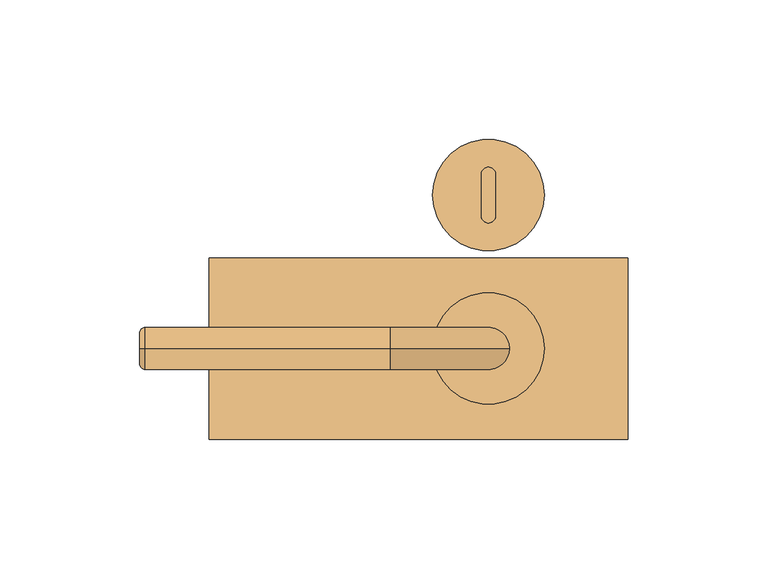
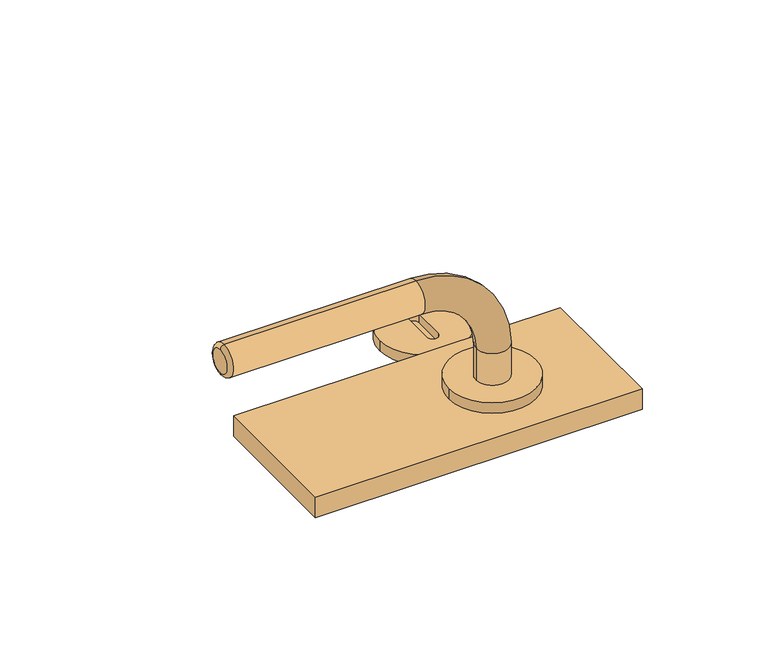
"""IFC4 building model written with IfcOpenShell, lengths in millimetres: door geometry, VERTI - kování TUPAI : ELIPTICA."""

from ifc_helpers import new_model, si_unit, point, frame, origin, origin_with_axes, origin_2d, place, context, project, spatial, polyline, circle_curve, ellipse_curve, trimmed, segment, composite_curve, outline, extrude, source, transform, mapped, element, save
from ifc_brep_helpers import plane_surface, cylinder_surface, revolved_surface, advanced_brep


def door_9093d3e3(model_context):
    return source(origin(), model_context, "Body", "SolidModel", [
        advanced_brep(
        [(7.5, 0.0, 0.0), (-7.5, 0.0, 0.0), (-7.5, 0.0, 30.0), (7.5, 0.0, 30.0), (-35.0, 0.0, 57.5), (-35.0, 0.0, 72.5), (-125.0, 0.0, 59.5), (-125.0, 0.0, 70.5), (-123.0, 0.0, 57.5), (-123.0, 0.0, 72.5)],
        [
            (0, 1, circle_curve(frame((0.0, 0.0, 0.0), z_axis=(0.0, 0.0, -1.0), x_axis=(-1.0, 0.0, 0.0)), 7.5)),
            (1, 0, circle_curve(frame((0.0, 0.0, 0.0), z_axis=(0.0, 0.0, -1.0), x_axis=(-1.0, 0.0, 0.0)), 7.5)),
            (1, 2),
            (2, 3, circle_curve(frame((0.0, 0.0, 30.0), z_axis=(0.0, 0.0, -1.0), x_axis=(-1.0, 0.0, 0.0)), 7.5)),
            (3, 0),
            (3, 2, circle_curve(frame((0.0, 0.0, 30.0), z_axis=(0.0, 0.0, -1.0), x_axis=(-1.0, 0.0, 0.0)), 7.5)),
            (2, 4, circle_curve(frame((-35.0, 0.0, 30.0), z_axis=(0.0, -1.0, 0.0), x_axis=(1.0, 0.0, 0.0)), 27.5)),
            (4, 5, circle_curve(frame((-35.0, 0.0, 65.0), z_axis=(1.0, 0.0, 0.0), x_axis=(0.0, 0.0, -1.0)), 7.5)),
            (5, 3, circle_curve(frame((-35.0, 0.0, 30.0), z_axis=(0.0, 1.0, 0.0), x_axis=(1.0, 0.0, 0.0)), 42.5)),
            (5, 4, circle_curve(frame((-35.0, 0.0, 65.0), z_axis=(1.0, 0.0, 0.0), x_axis=(0.0, 0.0, -1.0)), 7.5)),
            (6, 7, circle_curve(frame((-125.0, 0.0, 65.0), z_axis=(-1.0, 0.0, 0.0), x_axis=(0.0, 0.0, -1.0)), 5.5)),
            (7, 6, circle_curve(frame((-125.0, 0.0, 65.0), z_axis=(-1.0, 0.0, 0.0), x_axis=(0.0, 0.0, 1.0)), 5.5)),
            (4, 8),
            (8, 9, circle_curve(frame((-123.0, 0.0, 65.0), z_axis=(1.0, 0.0, 0.0), x_axis=(0.0, 0.0, -1.0)), 7.5)),
            (9, 5),
            (9, 8, circle_curve(frame((-123.0, 0.0, 65.0), z_axis=(1.0, 0.0, 0.0), x_axis=(0.0, 0.0, -1.0)), 7.5)),
            (7, 9, circle_curve(frame((-123.0, 0.0, 70.5), z_axis=(0.0, 1.0, 0.0), x_axis=(0.0, 0.0, -1.0)), 2.0)),
            (8, 6, circle_curve(frame((-123.0, 0.0, 59.5), z_axis=(0.0, 1.0, 0.0), x_axis=(0.0, 0.0, 1.0)), 2.0)),
        ],
        [
            plane_surface(frame((0.0, 0.0, 0.0), z_axis=(0.0, 0.0, -1.0), x_axis=(0.0, 1.0, 0.0))),
            cylinder_surface(frame((0.0, 0.0, 0.0), z_axis=(0.0, 0.0, -1.0), x_axis=(-1.0, 0.0, 0.0)), 7.5),
            revolved_surface(trimmed(ellipse_curve(frame((0.0, 0.0, 30.0), z_axis=(0.0, 0.0, 1.0), x_axis=(-1.0, 0.0, 0.0)), 7.5, 7.5), [point((7.5, 0.0, 30.0))], [point((-7.5, 0.0, 30.0))], True, "CARTESIAN"), (-35.0, 0.0, 30.0), (0.0, 1.0, 0.0)),
            revolved_surface(trimmed(ellipse_curve(frame((0.0, 0.0, 30.0), z_axis=(0.0, 0.0, 1.0), x_axis=(-1.0, 0.0, 0.0)), 7.5, 7.5), [point((-7.5, 0.0, 30.0))], [point((7.5, 0.0, 30.0))], True, "CARTESIAN"), (-35.0, 0.0, 30.0), (0.0, 1.0, 0.0)),
            plane_surface(frame((-125.0, 0.0, 65.0), z_axis=(-1.0, 0.0, 0.0), x_axis=(0.0, 1.0, 0.0))),
            cylinder_surface(frame((-35.0, 0.0, 65.0), z_axis=(1.0, 0.0, 0.0), x_axis=(0.0, 0.0, -1.0)), 7.5),
            revolved_surface(trimmed(ellipse_curve(frame((-123.0, 0.0, 70.5), z_axis=(0.0, 1.0, 0.0), x_axis=(0.0, 0.0, -1.0)), 2.0, 2.0), [point((-125.0, 0.0, 70.5))], [point((-123.0, 0.0, 72.5))], True, "CARTESIAN"), (-125.0, 0.0, 65.0), (1.0, 0.0, 0.0)),
            revolved_surface(trimmed(ellipse_curve(frame((-123.0, 0.0, 59.5), z_axis=(0.0, -1.0, 0.0), x_axis=(0.0, 0.0, 1.0)), 2.0, 2.0), [point((-125.0, 0.0, 59.5))], [point((-123.0, 0.0, 57.5))], True, "CARTESIAN"), (-125.0, 0.0, 65.0), (1.0, 0.0, 0.0)),
        ],
        [
            (0, [[1, 2]]),
            (1, [[3, 4, 5, -2]]),
            (1, [[-5, 6, -3, -1]]),
            (2, [[7, 8, 9, -4]]),
            (3, [[-9, 10, -7, -6]]),
            (4, [[11, 12]]),
            (5, [[13, 14, 15, -8]]),
            (5, [[-15, 16, -13, -10]]),
            (6, [[-12, 17, -14, 18]]),
            (7, [[-16, -17, -11, -18]]),
        ],
    ),
        advanced_brep(
        [(-20.0, 55.0, 5.0), (20.0, 55.0, 5.0), (-2.5, 62.4770958, 5.0), (2.5, 62.4770958, 5.0), (2.5, 47.5, 5.0), (-2.5, 47.5, 5.0), (-20.0, 55.0, 0.0), (20.0, 55.0, 0.0), (2.5, 62.4770958, 1.0), (2.5, 47.5, 1.0), (-2.5, 47.5, 1.0), (-2.5, 62.4770958, 1.0), (0.0, 45.0, 1.0)],
        [
            (0, 1, circle_curve(frame((0.0, 55.0, 5.0), z_axis=(0.0, 0.0, 1.0), x_axis=(1.0, 0.0, 0.0)), 20.0)),
            (1, 0, circle_curve(frame((0.0, 55.0, 5.0), z_axis=(0.0, 0.0, 1.0), x_axis=(1.0, 0.0, 0.0)), 20.0)),
            (2, 3, circle_curve(frame((0.0, 62.4770958, 5.0), z_axis=(0.0, 0.0, -1.0), x_axis=(1.0, 0.0, 0.0)), 2.5)),
            (3, 4),
            (4, 5, circle_curve(frame((0.0, 47.5, 5.0), z_axis=(0.0, 0.0, -1.0), x_axis=(1.0, 0.0, 0.0)), 2.5)),
            (5, 2),
            (6, 7, circle_curve(frame((0.0, 55.0, 0.0), z_axis=(0.0, 0.0, -1.0), x_axis=(1.0, 0.0, 0.0)), 20.0)),
            (7, 6, circle_curve(frame((0.0, 55.0, 0.0), z_axis=(0.0, 0.0, -1.0), x_axis=(1.0, 0.0, 0.0)), 20.0)),
            (1, 7),
            (6, 0),
            (3, 8),
            (8, 9),
            (9, 4),
            (5, 10),
            (10, 11),
            (11, 2),
            (8, 11, circle_curve(frame((0.0, 62.4770958, 1.0), z_axis=(0.0, 0.0, 1.0), x_axis=(1.0, 0.0, 0.0)), 2.5)),
            (10, 12, circle_curve(frame((0.0, 47.5, 1.0), z_axis=(0.0, 0.0, 1.0), x_axis=(1.0, 0.0, 0.0)), 2.5)),
            (12, 9, circle_curve(frame((0.0, 47.5, 1.0), z_axis=(0.0, 0.0, 1.0), x_axis=(1.0, 0.0, 0.0)), 2.5)),
        ],
        [
            plane_surface(frame((20.0, 55.0, 5.0), z_axis=(0.0, 0.0, 1.0), x_axis=(0.0, -1.0, 0.0))),
            plane_surface(frame((20.0, 55.0, 0.0), z_axis=(0.0, 0.0, -1.0), x_axis=(0.0, 1.0, 0.0))),
            cylinder_surface(frame((0.0, 55.0, 0.0), z_axis=(0.0, 0.0, 1.0), x_axis=(1.0, 0.0, 0.0)), 20.0),
            plane_surface(frame((2.5, 47.5, 5.0), z_axis=(-1.0, 0.0, 0.0), x_axis=(0.0, 0.0, -1.0))),
            plane_surface(frame((-2.5, 62.4770958, 5.0), z_axis=(1.0, 0.0, 0.0), x_axis=(0.0, 0.0, -1.0))),
            plane_surface(frame((-2.5, 45.0, 1.0), z_axis=(0.0, 0.0, 1.0), x_axis=(-1.0, 0.0, 0.0))),
            revolved_surface(polyline([(2.5, 47.5, 1.0), (2.5, 47.5, 5.0)]), (0.0, 47.5, 0.0), (0.0, 0.0, -1.0)),
            revolved_surface(polyline([(2.5, 62.4770958, 1.0), (2.5, 62.4770958, 5.0)]), (0.0, 62.4770958, 0.0), (0.0, 0.0, -1.0)),
        ],
        [
            (0, [[1, 2], [3, 4, 5, 6]]),
            (1, [[7, 8]]),
            (2, [[9, -7, 10, -2]]),
            (2, [[-10, -8, -9, -1]]),
            (3, [[11, 12, 13, -4]]),
            (4, [[14, 15, 16, -6]]),
            (5, [[17, -15, 18, 19, -12]]),
            (6, [[-13, -19, -18, -14, -5]]),
            (7, [[-16, -17, -11, -3]]),
        ],
    ),
        extrude(outline(composite_curve([segment(trimmed(circle_curve(origin_2d(), 20.0), [point((-20.0, 0.0))], [point((20.0, 0.0))], False, "CARTESIAN"), True, "CONTINUOUS"), segment(trimmed(circle_curve(origin_2d(), 20.0), [point((20.0, 0.0))], [point((-20.0, 0.0))], False, "CARTESIAN"), True, "CONTINUOUS")], self_intersect=False)), frame((0.0, 0.0, 10.0), z_axis=(0.0, 0.0, 1.0), x_axis=(1.0, 0.0, 0.0)), (0.0, 0.0, 1.0), 5.0),
        extrude(outline(polyline([(50.0, -32.5), (-100.0, -32.5), (-100.0, 32.5), (50.0, 32.5), (50.0, -32.5)])), origin_with_axes(), (0.0, 0.0, 1.0), 10.0),
    ])


if __name__ == "__main__":
    model = new_model("IFC4")
    model_context = context("Model", 3, world=origin())
    ifc_project = project(units=[si_unit("LENGTHUNIT", "METRE", prefix="MILLI")], contexts=[model_context])
    site = spatial("IfcSite", under=ifc_project)
    building = spatial("IfcBuilding", under=site)
    placement = place(None, origin())
    door_shape = door_9093d3e3(model_context)
    element("IfcDoor", 1, ObjectType="VERTI - kování TUPAI : ELIPTICA", at=placement, inside=building, context=model_context, shape_type="MappedRepresentation", body=[
        mapped(door_shape, transform((0.0, 0.0, 0.0), x_axis=(1.0, 0.0, 0.0), y_axis=(0.0, 1.0, 0.0), z_axis=(0.0, 0.0, 1.0))),
    ])
    save(model, "model.ifc")
